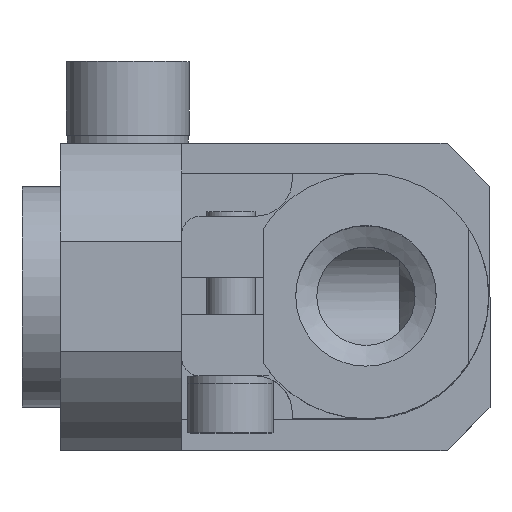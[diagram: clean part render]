
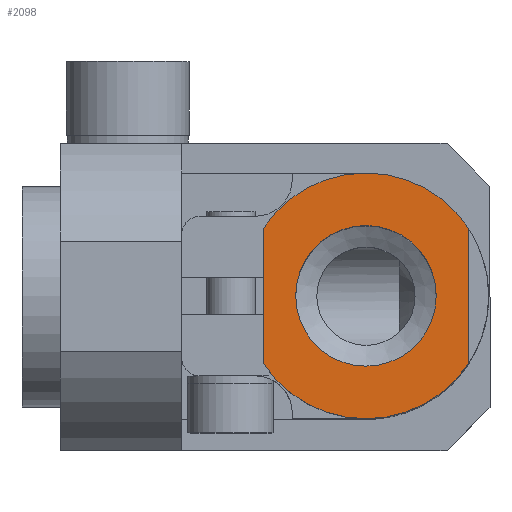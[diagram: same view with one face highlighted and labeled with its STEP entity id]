
A CAD part, top view. The second image highlights one B-rep face of the part: STEP entity #2098.
In plain terms, the highlighted planar face has unit normal (0, 0, 1) as drawn and (0, -1, 0) by its records, which use the part's own axes.
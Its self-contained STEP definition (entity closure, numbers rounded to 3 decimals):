
#45 = CARTESIAN_POINT ( 'NONE',  ( 0., -15., 0. ) ) ;
#133 = DIRECTION ( 'NONE',  ( 0., -1., 0. ) ) ;
#192 = CARTESIAN_POINT ( 'NONE',  ( 0., -15., 0. ) ) ;
#211 = DIRECTION ( 'NONE',  ( 0., -1., 0. ) ) ;
#232 = EDGE_CURVE ( 'NONE', #1481, #1481, #3365, .T. ) ;
#334 = ORIENTED_EDGE ( 'NONE', *, *, #1461, .F. ) ;
#336 = ORIENTED_EDGE ( 'NONE', *, *, #2413, .F. ) ;
#586 = DIRECTION ( 'NONE',  ( 0., 1., 0. ) ) ;
#720 = DIRECTION ( 'NONE',  ( 0., 1., 0. ) ) ;
#787 = CIRCLE ( 'NONE', #1304, 10. ) ;
#944 = VERTEX_POINT ( 'NONE', #2611 ) ;
#953 = AXIS2_PLACEMENT_3D ( 'NONE', #192, #211, #1303 ) ;
#1165 = CARTESIAN_POINT ( 'NONE',  ( 0., -15., 0. ) ) ;
#1251 = PLANE ( 'NONE',  #953 ) ;
#1252 = VERTEX_POINT ( 'NONE', #1549 ) ;
#1294 = LINE ( 'NONE', #2082, #3585 ) ;
#1303 = DIRECTION ( 'NONE',  ( 0., 0., -1. ) ) ;
#1304 = AXIS2_PLACEMENT_3D ( 'NONE', #2341, #720, #2017 ) ;
#1385 = CARTESIAN_POINT ( 'NONE',  ( -8.352, -15., -5.5 ) ) ;
#1398 = LINE ( 'NONE', #2539, #2756 ) ;
#1461 = EDGE_CURVE ( 'NONE', #1252, #2993, #3242, .T. ) ;
#1481 = VERTEX_POINT ( 'NONE', #2582 ) ;
#1541 = VERTEX_POINT ( 'NONE', #2047 ) ;
#1549 = CARTESIAN_POINT ( 'NONE',  ( 8.352, -15., -5.5 ) ) ;
#1694 = EDGE_LOOP ( 'NONE', ( #2004 ) ) ;
#1749 = EDGE_CURVE ( 'NONE', #944, #1252, #1294, .T. ) ;
#1785 = AXIS2_PLACEMENT_3D ( 'NONE', #45, #133, #3121 ) ;
#1824 = DIRECTION ( 'NONE',  ( 0., 0., -1. ) ) ;
#1911 = DIRECTION ( 'NONE',  ( 0., 0., 1. ) ) ;
#2004 = ORIENTED_EDGE ( 'NONE', *, *, #232, .F. ) ;
#2017 = DIRECTION ( 'NONE',  ( 0., 0., 1. ) ) ;
#2047 = CARTESIAN_POINT ( 'NONE',  ( -8.352, -15., 5.5 ) ) ;
#2082 = CARTESIAN_POINT ( 'NONE',  ( 8.352, -15., 5.5 ) ) ;
#2098 = ADVANCED_FACE ( 'NONE', ( #2895, #2619 ), #1251, .T. ) ;
#2195 = DIRECTION ( 'NONE',  ( 0., 0., 1. ) ) ;
#2341 = CARTESIAN_POINT ( 'NONE',  ( 0., -15., 0. ) ) ;
#2350 = ORIENTED_EDGE ( 'NONE', *, *, #2955, .F. ) ;
#2413 = EDGE_CURVE ( 'NONE', #1541, #944, #787, .T. ) ;
#2539 = CARTESIAN_POINT ( 'NONE',  ( -8.352, -15., 5.5 ) ) ;
#2582 = CARTESIAN_POINT ( 'NONE',  ( 0., -15., -5.722 ) ) ;
#2611 = CARTESIAN_POINT ( 'NONE',  ( 8.352, -15., 5.5 ) ) ;
#2619 = FACE_OUTER_BOUND ( 'NONE', #2780, .T. ) ;
#2756 = VECTOR ( 'NONE', #2195, 1000. ) ;
#2780 = EDGE_LOOP ( 'NONE', ( #2350, #334, #3446, #336 ) ) ;
#2886 = AXIS2_PLACEMENT_3D ( 'NONE', #1165, #586, #1911 ) ;
#2895 = FACE_BOUND ( 'NONE', #1694, .T. ) ;
#2955 = EDGE_CURVE ( 'NONE', #2993, #1541, #1398, .T. ) ;
#2993 = VERTEX_POINT ( 'NONE', #1385 ) ;
#3121 = DIRECTION ( 'NONE',  ( 0., 0., -1. ) ) ;
#3242 = CIRCLE ( 'NONE', #2886, 10. ) ;
#3365 = CIRCLE ( 'NONE', #1785, 5.722 ) ;
#3446 = ORIENTED_EDGE ( 'NONE', *, *, #1749, .F. ) ;
#3585 = VECTOR ( 'NONE', #1824, 1000. ) ;
